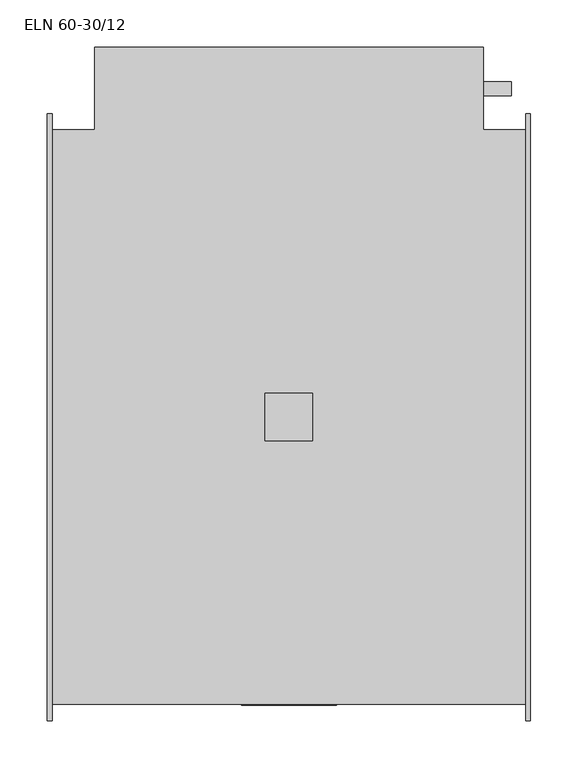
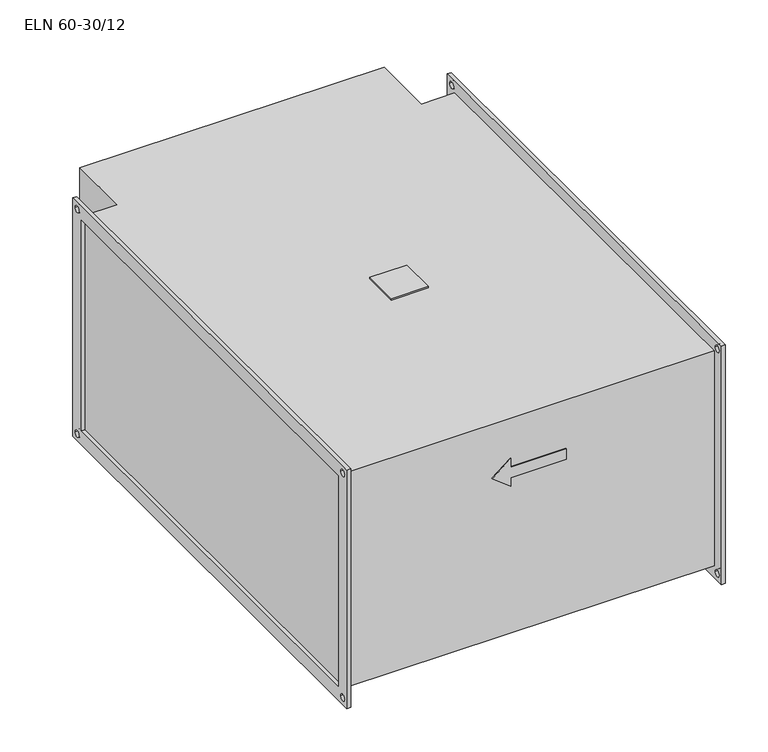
"""IFC4 building model written with IfcOpenShell, lengths in millimetres: proxy geometry, KORF_Нагреватель_Электрический_ELN : ELN 60-30/12."""

from ifc_helpers import new_model, si_unit, point, frame, frame_2d, origin, place, context, project, spatial, polyline, circle_curve, trimmed, segment, composite_curve, outline, extrude, source, transform, mapped, element, save


def eln_60_30_12_18bf4b00(model_context):
    return source(origin(), model_context, "Body", "SweptSolid", [
        extrude(outline(polyline([(230.0, -25.0), (230.0, 25.0), (280.0, 25.0), (280.0, -25.0), (230.0, -25.0)])), frame((0.0, 0.0, 153.0), z_axis=(0.0, 0.0, 1.0), x_axis=(1.0, 0.0, 0.0)), (0.0, 0.0, 1.0), 2.0),
        extrude(outline(composite_curve([segment(trimmed(circle_curve(frame_2d((346.5, -76.5)), 7.5), [point((339.0, -76.5))], [point((354.0, -76.5))], False, "CARTESIAN"), True, "CONTINUOUS"), segment(trimmed(circle_curve(frame_2d((346.5, -76.5)), 7.5), [point((354.0, -76.5))], [point((339.0, -76.5))], False, "CARTESIAN"), True, "CONTINUOUS")], self_intersect=False)), frame((460.0, 0.0, 0.0), z_axis=(1.0, 0.0, 0.0), x_axis=(0.0, 1.0, 0.0)), (0.0, 0.0, 1.0), 30.0),
        extrude(outline(composite_curve([segment(trimmed(circle_curve(frame_2d((346.5, -56.5)), 7.5), [point((339.0, -56.5))], [point((354.0, -56.5))], False, "CARTESIAN"), True, "CONTINUOUS"), segment(trimmed(circle_curve(frame_2d((346.5, -56.5)), 7.5), [point((354.0, -56.5))], [point((339.0, -56.5))], False, "CARTESIAN"), True, "CONTINUOUS")], self_intersect=False)), frame((460.0, 0.0, 0.0), z_axis=(1.0, 0.0, 0.0), x_axis=(0.0, 1.0, 0.0)), (0.0, 0.0, 1.0), 30.0),
        extrude(outline(composite_curve([segment(trimmed(circle_curve(frame_2d((346.5, -96.5)), 7.5), [point((339.0, -96.5))], [point((354.0, -96.5))], False, "CARTESIAN"), True, "CONTINUOUS"), segment(trimmed(circle_curve(frame_2d((346.5, -96.5)), 7.5), [point((354.0, -96.5))], [point((339.0, -96.5))], False, "CARTESIAN"), True, "CONTINUOUS")], self_intersect=False)), frame((460.0, 0.0, 0.0), z_axis=(1.0, 0.0, 0.0), x_axis=(0.0, 1.0, 0.0)), (0.0, 0.0, 1.0), 30.0),
        extrude(outline(polyline([(96.5, 230.0), (76.5, 205.0), (56.5, 230.0), (69.0, 230.0), (69.0, 305.0), (84.0, 305.0), (84.0, 230.0), (96.5, 230.0)])), frame((0.0, -304.0, 0.0), z_axis=(0.0, 1.0, 0.0), x_axis=(0.0, 0.0, 1.0)), (0.0, 0.0, 1.0), 1.0),
        extrude(outline(polyline([(505.0, 303.0), (505.0, -303.0), (5.0, -303.0), (5.0, 303.0), (50.0, 303.0), (50.0, 390.0), (460.0, 390.0), (460.0, 303.0), (505.0, 303.0)])), frame((0.0, 0.0, -153.0), z_axis=(0.0, 0.0, 1.0), x_axis=(1.0, 0.0, 0.0)), (0.0, 0.0, 1.0), 306.0),
        extrude(outline(polyline([(-320.0, 170.0), (320.0, 170.0), (320.0, -170.0), (-320.0, -170.0), (-320.0, 170.0)]), holes=[polyline([(-300.0, 150.0), (-300.0, -150.0), (300.0, -150.0), (300.0, 150.0), (-300.0, 150.0)]), composite_curve([segment(trimmed(circle_curve(frame_2d((310.0, 160.0)), 4.5), [point((305.5, 160.0))], [point((314.5, 160.0))], True, "CARTESIAN"), True, "CONTINUOUS"), segment(trimmed(circle_curve(frame_2d((310.0, 160.0)), 4.5), [point((314.5, 160.0))], [point((305.5, 160.0))], True, "CARTESIAN"), True, "CONTINUOUS")], self_intersect=False), composite_curve([segment(trimmed(circle_curve(frame_2d((-310.0, 160.0)), 4.5), [point((-314.5, 160.0))], [point((-305.5, 160.0))], True, "CARTESIAN"), True, "CONTINUOUS"), segment(trimmed(circle_curve(frame_2d((-310.0, 160.0)), 4.5), [point((-305.5, 160.0))], [point((-314.5, 160.0))], True, "CARTESIAN"), True, "CONTINUOUS")], self_intersect=False), composite_curve([segment(trimmed(circle_curve(frame_2d((-310.0, -160.0)), 4.5), [point((-314.5, -160.0))], [point((-305.5, -160.0))], True, "CARTESIAN"), True, "CONTINUOUS"), segment(trimmed(circle_curve(frame_2d((-310.0, -160.0)), 4.5), [point((-305.5, -160.0))], [point((-314.5, -160.0))], True, "CARTESIAN"), True, "CONTINUOUS")], self_intersect=False), composite_curve([segment(trimmed(circle_curve(frame_2d((310.0, -160.0)), 4.5), [point((305.5, -160.0))], [point((314.5, -160.0))], True, "CARTESIAN"), True, "CONTINUOUS"), segment(trimmed(circle_curve(frame_2d((310.0, -160.0)), 4.5), [point((314.5, -160.0))], [point((305.5, -160.0))], True, "CARTESIAN"), True, "CONTINUOUS")], self_intersect=False)]), frame((505.0, 0.0, 0.0), z_axis=(1.0, 0.0, 0.0), x_axis=(0.0, 1.0, 0.0)), (0.0, 0.0, 1.0), 5.0),
        extrude(outline(polyline([(-320.0, 170.0), (320.0, 170.0), (320.0, -170.0), (-320.0, -170.0), (-320.0, 170.0)]), holes=[polyline([(-300.0, 150.0), (-300.0, -150.0), (300.0, -150.0), (300.0, 150.0), (-300.0, 150.0)]), composite_curve([segment(trimmed(circle_curve(frame_2d((310.0, 160.0)), 4.5), [point((305.5, 160.0))], [point((314.5, 160.0))], True, "CARTESIAN"), True, "CONTINUOUS"), segment(trimmed(circle_curve(frame_2d((310.0, 160.0)), 4.5), [point((314.5, 160.0))], [point((305.5, 160.0))], True, "CARTESIAN"), True, "CONTINUOUS")], self_intersect=False), composite_curve([segment(trimmed(circle_curve(frame_2d((-310.0, 160.0)), 4.5), [point((-314.5, 160.0))], [point((-305.5, 160.0))], True, "CARTESIAN"), True, "CONTINUOUS"), segment(trimmed(circle_curve(frame_2d((-310.0, 160.0)), 4.5), [point((-305.5, 160.0))], [point((-314.5, 160.0))], True, "CARTESIAN"), True, "CONTINUOUS")], self_intersect=False), composite_curve([segment(trimmed(circle_curve(frame_2d((-310.0, -160.0)), 4.5), [point((-314.5, -160.0))], [point((-305.5, -160.0))], True, "CARTESIAN"), True, "CONTINUOUS"), segment(trimmed(circle_curve(frame_2d((-310.0, -160.0)), 4.5), [point((-305.5, -160.0))], [point((-314.5, -160.0))], True, "CARTESIAN"), True, "CONTINUOUS")], self_intersect=False), composite_curve([segment(trimmed(circle_curve(frame_2d((310.0, -160.0)), 4.5), [point((305.5, -160.0))], [point((314.5, -160.0))], True, "CARTESIAN"), True, "CONTINUOUS"), segment(trimmed(circle_curve(frame_2d((310.0, -160.0)), 4.5), [point((314.5, -160.0))], [point((305.5, -160.0))], True, "CARTESIAN"), True, "CONTINUOUS")], self_intersect=False)]), frame((0.0, 0.0, 0.0), z_axis=(1.0, 0.0, 0.0), x_axis=(0.0, 1.0, 0.0)), (0.0, 0.0, 1.0), 5.0),
    ])


if __name__ == "__main__":
    model = new_model("IFC4")
    model_context = context("Model", 3, world=origin())
    ifc_project = project(units=[si_unit("LENGTHUNIT", "METRE", prefix="MILLI")], contexts=[model_context])
    site = spatial("IfcSite", under=ifc_project)
    building = spatial("IfcBuilding", under=site)
    placement = place(None, origin())
    eln_60_30_12_shape = eln_60_30_12_18bf4b00(model_context)
    element("IfcBuildingElementProxy", 1, Name="KORF_Нагреватель_Электрический_ELN : ELN 60-30/12", ObjectType="KORF_Нагреватель_Электрический_ELN : ELN 60-30/12", at=placement, inside=building, context=model_context, shape_type="MappedRepresentation", body=[
        mapped(eln_60_30_12_shape, transform((0.0, 0.0, 0.0), x_axis=(1.0, 0.0, 0.0), y_axis=(0.0, 1.0, 0.0), z_axis=(0.0, 0.0, 1.0))),
    ])
    save(model, "model.ifc")
